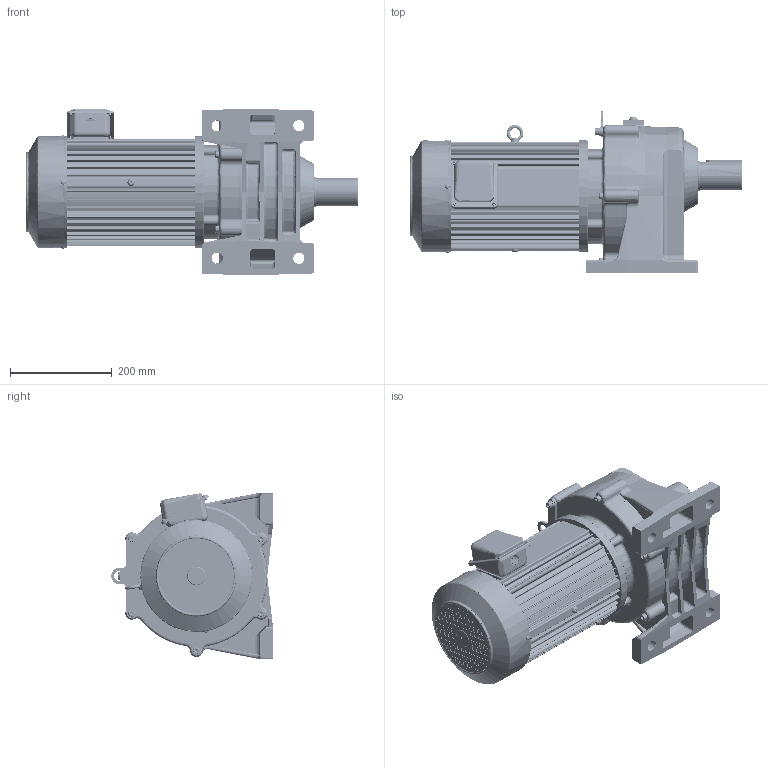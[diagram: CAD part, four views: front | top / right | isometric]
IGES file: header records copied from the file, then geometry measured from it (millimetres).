
Start section: SolidWorks IGES file using analytic representation for surfaces
Global section: file name: \\100.100.100.8\1_共有作業フォルダ\1-5_３Ｄデータ\solidworks\personal-folder\H.Nagayama\SGP1外形_075~370\P1(3D)_075~370\igs\TML2-37E-(10~50).IGS; native system: SolidWorks 2018; preprocessor: SolidWorks 2018; author: user; date: 210309.150033; units: millimetre
Bounding box: 651 x 316.87 x 327 mm (x, y, z)
Surface area: 1286992.3 mm2 (no closed solid volume)
Topology: 0 solids, 0 shells, 2814 faces, 33291 edges, 33210 vertices
Faces by surface type: bspline 1419, revolution 1395
